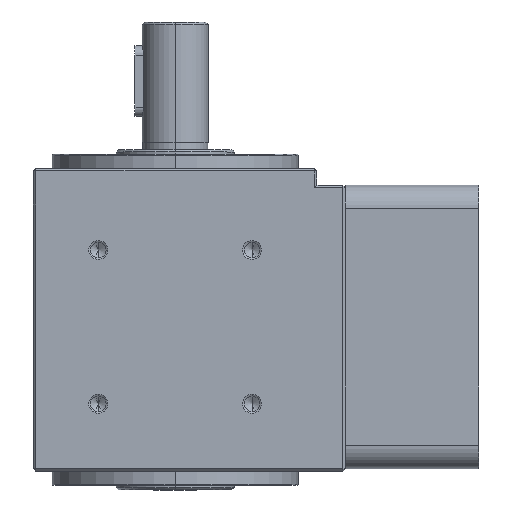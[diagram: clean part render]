
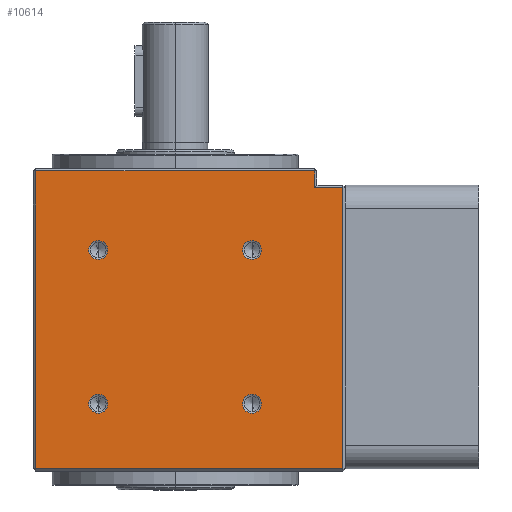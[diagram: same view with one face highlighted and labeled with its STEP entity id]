
A CAD part, left-side view. The second image highlights one B-rep face of the part: STEP entity #10614.
In plain terms, the highlighted planar face has unit normal (-1, 0, 0) as drawn and (1, 0, 0) by its records, which use the part's own axes.
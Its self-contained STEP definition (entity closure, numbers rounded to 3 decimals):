
#3 = DIRECTION ( 'NONE',  ( 0., 0., -1. ) ) ;
#155 = CARTESIAN_POINT ( 'NONE',  ( 30., 16.263, 52.763 ) ) ;
#398 = DIRECTION ( 'NONE',  ( 0., 0., -1. ) ) ;
#462 = VERTEX_POINT ( 'NONE', #33090 ) ;
#581 = CARTESIAN_POINT ( 'NONE',  ( 30., -30., 70. ) ) ;
#886 = DIRECTION ( 'NONE',  ( 0., 0., 1. ) ) ;
#1187 = EDGE_CURVE ( 'NONE', #35430, #12190, #6632, .T. ) ;
#1309 = AXIS2_PLACEMENT_3D ( 'NONE', #37122, #2476, #34298 ) ;
#1444 = DIRECTION ( 'NONE',  ( 0., -1., 0. ) ) ;
#1832 = AXIS2_PLACEMENT_3D ( 'NONE', #26610, #9351, #398 ) ;
#1959 = CARTESIAN_POINT ( 'NONE',  ( 30., -35.5, 66.5 ) ) ;
#2342 = CARTESIAN_POINT ( 'NONE',  ( 30., -35.5, 70. ) ) ;
#2349 = ORIENTED_EDGE ( 'NONE', *, *, #37026, .F. ) ;
#2476 = DIRECTION ( 'NONE',  ( 1., 0., 0. ) ) ;
#3179 = EDGE_CURVE ( 'NONE', #32788, #462, #17085, .T. ) ;
#3362 = EDGE_CURVE ( 'NONE', #9473, #35430, #12490, .T. ) ;
#3508 = DIRECTION ( 'NONE',  ( 0., -1., 0. ) ) ;
#3671 = DIRECTION ( 'NONE',  ( 0., 1., 0. ) ) ;
#3989 = CARTESIAN_POINT ( 'NONE',  ( 30., -16.263, 50.763 ) ) ;
#4149 = EDGE_CURVE ( 'NONE', #6709, #7293, #30741, .T. ) ;
#4250 = CARTESIAN_POINT ( 'NONE',  ( 30., -16.263, 54.763 ) ) ;
#4517 = CARTESIAN_POINT ( 'NONE',  ( 30., -29.5, 7. ) ) ;
#4622 = ORIENTED_EDGE ( 'NONE', *, *, #3179, .F. ) ;
#4640 = VERTEX_POINT ( 'NONE', #4250 ) ;
#4686 = VECTOR ( 'NONE', #886, 1000. ) ;
#4752 = FACE_BOUND ( 'NONE', #22417, .T. ) ;
#4950 = VERTEX_POINT ( 'NONE', #10939 ) ;
#4997 = VECTOR ( 'NONE', #36850, 1000. ) ;
#5720 = CIRCLE ( 'NONE', #16689, 2. ) ;
#6068 = EDGE_CURVE ( 'NONE', #14108, #4640, #9632, .T. ) ;
#6137 = CARTESIAN_POINT ( 'NONE',  ( 30., -29.5, 70. ) ) ;
#6632 = LINE ( 'NONE', #27638, #19931 ) ;
#6709 = VERTEX_POINT ( 'NONE', #37419 ) ;
#6896 = CARTESIAN_POINT ( 'NONE',  ( 30., 16.263, 20.237 ) ) ;
#7293 = VERTEX_POINT ( 'NONE', #21769 ) ;
#7443 = ORIENTED_EDGE ( 'NONE', *, *, #25342, .T. ) ;
#8621 = EDGE_LOOP ( 'NONE', ( #36028, #31904 ) ) ;
#8672 = AXIS2_PLACEMENT_3D ( 'NONE', #17413, #20325, #3 ) ;
#8955 = DIRECTION ( 'NONE',  ( 0., 0., -1. ) ) ;
#9028 = ORIENTED_EDGE ( 'NONE', *, *, #35511, .F. ) ;
#9160 = VERTEX_POINT ( 'NONE', #15257 ) ;
#9351 = DIRECTION ( 'NONE',  ( 1., 0., 0. ) ) ;
#9473 = VERTEX_POINT ( 'NONE', #23113 ) ;
#9632 = CIRCLE ( 'NONE', #30188, 2. ) ;
#9924 = VECTOR ( 'NONE', #8955, 1000. ) ;
#10553 = DIRECTION ( 'NONE',  ( 1., 0., 0. ) ) ;
#10614 = ADVANCED_FACE ( 'NONE', ( #18927, #21234, #12548, #4752, #34935 ), #21415, .F. ) ;
#10939 = CARTESIAN_POINT ( 'NONE',  ( 30., -29.5, 3.5 ) ) ;
#11742 = CARTESIAN_POINT ( 'NONE',  ( 30., -16.263, 20.237 ) ) ;
#12190 = VERTEX_POINT ( 'NONE', #1959 ) ;
#12276 = EDGE_CURVE ( 'NONE', #12190, #9160, #37156, .T. ) ;
#12318 = CIRCLE ( 'NONE', #16889, 2. ) ;
#12490 = LINE ( 'NONE', #32964, #4686 ) ;
#12548 = FACE_BOUND ( 'NONE', #8621, .T. ) ;
#12641 = AXIS2_PLACEMENT_3D ( 'NONE', #11742, #31934, #17261 ) ;
#12929 = VECTOR ( 'NONE', #13611, 1000. ) ;
#13113 = DIRECTION ( 'NONE',  ( 0., 0., -1. ) ) ;
#13611 = DIRECTION ( 'NONE',  ( 0., 0., -1. ) ) ;
#13615 = EDGE_CURVE ( 'NONE', #4950, #9473, #37538, .T. ) ;
#14108 = VERTEX_POINT ( 'NONE', #3989 ) ;
#14213 = EDGE_LOOP ( 'NONE', ( #7443, #26856, #19780, #34437, #18732, #19180 ) ) ;
#15257 = CARTESIAN_POINT ( 'NONE',  ( 30., -35.5, 7. ) ) ;
#15921 = CARTESIAN_POINT ( 'NONE',  ( 30., -16.263, 52.763 ) ) ;
#16157 = EDGE_CURVE ( 'NONE', #7293, #6709, #12318, .T. ) ;
#16689 = AXIS2_PLACEMENT_3D ( 'NONE', #32714, #21472, #29916 ) ;
#16889 = AXIS2_PLACEMENT_3D ( 'NONE', #155, #34927, #27016 ) ;
#17085 = CIRCLE ( 'NONE', #8672, 2. ) ;
#17251 = CARTESIAN_POINT ( 'NONE',  ( 30., 29.5, 66.5 ) ) ;
#17261 = DIRECTION ( 'NONE',  ( 0., 0., -1. ) ) ;
#17372 = LINE ( 'NONE', #18979, #4997 ) ;
#17413 = CARTESIAN_POINT ( 'NONE',  ( 30., -16.263, 20.237 ) ) ;
#18649 = CIRCLE ( 'NONE', #26420, 2. ) ;
#18657 = DIRECTION ( 'NONE',  ( 0., 0., -1. ) ) ;
#18732 = ORIENTED_EDGE ( 'NONE', *, *, #1187, .T. ) ;
#18927 = FACE_OUTER_BOUND ( 'NONE', #14213, .T. ) ;
#18979 = CARTESIAN_POINT ( 'NONE',  ( 30., -30., 7. ) ) ;
#19180 = ORIENTED_EDGE ( 'NONE', *, *, #12276, .T. ) ;
#19596 = CARTESIAN_POINT ( 'NONE',  ( 30., -16.263, 18.237 ) ) ;
#19660 = VERTEX_POINT ( 'NONE', #37448 ) ;
#19780 = ORIENTED_EDGE ( 'NONE', *, *, #13615, .T. ) ;
#19931 = VECTOR ( 'NONE', #1444, 1000. ) ;
#20325 = DIRECTION ( 'NONE',  ( 1., 0., 0. ) ) ;
#21042 = DIRECTION ( 'NONE',  ( -1., 0., 0. ) ) ;
#21234 = FACE_BOUND ( 'NONE', #26540, .T. ) ;
#21415 = PLANE ( 'NONE',  #26836 ) ;
#21472 = DIRECTION ( 'NONE',  ( 1., 0., 0. ) ) ;
#21769 = CARTESIAN_POINT ( 'NONE',  ( 30., 16.263, 50.763 ) ) ;
#22417 = EDGE_LOOP ( 'NONE', ( #34682, #23336 ) ) ;
#22990 = CARTESIAN_POINT ( 'NONE',  ( 30., 16.263, 18.237 ) ) ;
#23113 = CARTESIAN_POINT ( 'NONE',  ( 30., 29.5, 3.5 ) ) ;
#23193 = LINE ( 'NONE', #6137, #9924 ) ;
#23336 = ORIENTED_EDGE ( 'NONE', *, *, #30037, .F. ) ;
#25342 = EDGE_CURVE ( 'NONE', #9160, #25551, #17372, .T. ) ;
#25551 = VERTEX_POINT ( 'NONE', #4517 ) ;
#26420 = AXIS2_PLACEMENT_3D ( 'NONE', #6896, #36024, #18657 ) ;
#26540 = EDGE_LOOP ( 'NONE', ( #33741, #9028 ) ) ;
#26610 = CARTESIAN_POINT ( 'NONE',  ( 30., 16.263, 20.237 ) ) ;
#26836 = AXIS2_PLACEMENT_3D ( 'NONE', #581, #21042, #3508 ) ;
#26856 = ORIENTED_EDGE ( 'NONE', *, *, #28860, .T. ) ;
#27016 = DIRECTION ( 'NONE',  ( 0., 0., -1. ) ) ;
#27019 = EDGE_CURVE ( 'NONE', #36949, #19660, #18649, .T. ) ;
#27638 = CARTESIAN_POINT ( 'NONE',  ( 30., -36., 66.5 ) ) ;
#28860 = EDGE_CURVE ( 'NONE', #25551, #4950, #23193, .T. ) ;
#29755 = EDGE_LOOP ( 'NONE', ( #4622, #2349 ) ) ;
#29916 = DIRECTION ( 'NONE',  ( 0., 0., -1. ) ) ;
#30037 = EDGE_CURVE ( 'NONE', #4640, #14108, #5720, .T. ) ;
#30188 = AXIS2_PLACEMENT_3D ( 'NONE', #15921, #10553, #13113 ) ;
#30260 = CARTESIAN_POINT ( 'NONE',  ( 30., 30., 3.5 ) ) ;
#30741 = CIRCLE ( 'NONE', #1309, 2. ) ;
#31715 = CIRCLE ( 'NONE', #1832, 2. ) ;
#31904 = ORIENTED_EDGE ( 'NONE', *, *, #4149, .F. ) ;
#31934 = DIRECTION ( 'NONE',  ( 1., 0., 0. ) ) ;
#32714 = CARTESIAN_POINT ( 'NONE',  ( 30., -16.263, 52.763 ) ) ;
#32788 = VERTEX_POINT ( 'NONE', #19596 ) ;
#32964 = CARTESIAN_POINT ( 'NONE',  ( 30., 29.5, 70. ) ) ;
#33027 = CIRCLE ( 'NONE', #12641, 2. ) ;
#33090 = CARTESIAN_POINT ( 'NONE',  ( 30., -16.263, 22.237 ) ) ;
#33741 = ORIENTED_EDGE ( 'NONE', *, *, #27019, .F. ) ;
#34298 = DIRECTION ( 'NONE',  ( 0., 0., -1. ) ) ;
#34437 = ORIENTED_EDGE ( 'NONE', *, *, #3362, .T. ) ;
#34682 = ORIENTED_EDGE ( 'NONE', *, *, #6068, .F. ) ;
#34927 = DIRECTION ( 'NONE',  ( 1., 0., 0. ) ) ;
#34935 = FACE_BOUND ( 'NONE', #29755, .T. ) ;
#35430 = VERTEX_POINT ( 'NONE', #17251 ) ;
#35511 = EDGE_CURVE ( 'NONE', #19660, #36949, #31715, .T. ) ;
#35690 = VECTOR ( 'NONE', #3671, 1000. ) ;
#36024 = DIRECTION ( 'NONE',  ( 1., 0., 0. ) ) ;
#36028 = ORIENTED_EDGE ( 'NONE', *, *, #16157, .F. ) ;
#36850 = DIRECTION ( 'NONE',  ( 0., 1., 0. ) ) ;
#36949 = VERTEX_POINT ( 'NONE', #22990 ) ;
#37026 = EDGE_CURVE ( 'NONE', #462, #32788, #33027, .T. ) ;
#37122 = CARTESIAN_POINT ( 'NONE',  ( 30., 16.263, 52.763 ) ) ;
#37156 = LINE ( 'NONE', #2342, #12929 ) ;
#37419 = CARTESIAN_POINT ( 'NONE',  ( 30., 16.263, 54.763 ) ) ;
#37448 = CARTESIAN_POINT ( 'NONE',  ( 30., 16.263, 22.237 ) ) ;
#37538 = LINE ( 'NONE', #30260, #35690 ) ;
